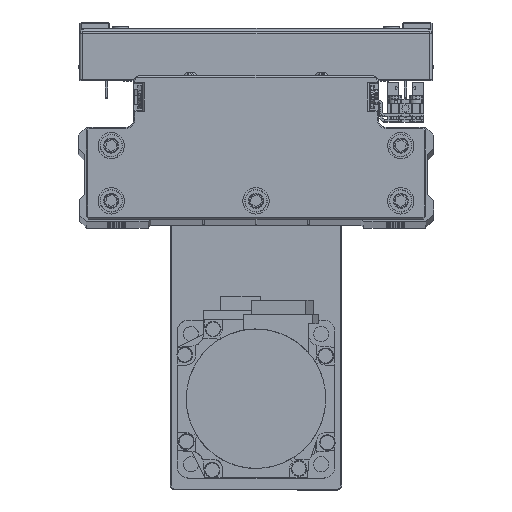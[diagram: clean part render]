
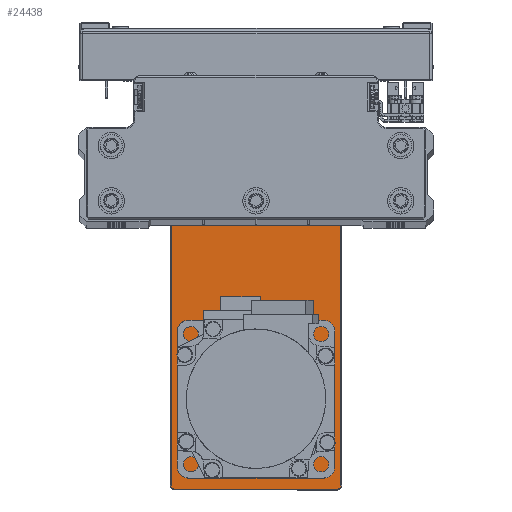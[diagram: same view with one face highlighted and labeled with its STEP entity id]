
A CAD part, top view. The second image highlights one B-rep face of the part: STEP entity #24438.
In plain terms, the highlighted planar face has unit normal (0, 0, 1) as drawn and (0, 1, 0) by its records, which use the part's own axes.
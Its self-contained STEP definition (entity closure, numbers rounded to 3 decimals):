
#166 = VERTEX_POINT ( 'NONE', #527 ) ;
#527 = CARTESIAN_POINT ( 'NONE',  ( 61.051, 6., 25.017 ) ) ;
#529 = VERTEX_POINT ( 'NONE', #14568 ) ;
#595 = CARTESIAN_POINT ( 'NONE',  ( 0., 6., -32.2 ) ) ;
#864 = ORIENTED_EDGE ( 'NONE', *, *, #35269, .T. ) ;
#1194 = DIRECTION ( 'NONE',  ( 0., -1., 0. ) ) ;
#1312 = EDGE_CURVE ( 'NONE', #30140, #10570, #21007, .T. ) ;
#1366 = AXIS2_PLACEMENT_3D ( 'NONE', #23630, #37556, #6263 ) ;
#1404 = CARTESIAN_POINT ( 'NONE',  ( 61.051, 6., 23.492 ) ) ;
#1407 = DIRECTION ( 'NONE',  ( 0., 0., -1. ) ) ;
#1914 = ORIENTED_EDGE ( 'NONE', *, *, #28857, .F. ) ;
#1935 = CARTESIAN_POINT ( 'NONE',  ( 0., 6., 32.2 ) ) ;
#1994 = VERTEX_POINT ( 'NONE', #42963 ) ;
#2457 = EDGE_CURVE ( 'NONE', #15174, #12155, #26929, .T. ) ;
#2636 = EDGE_CURVE ( 'NONE', #12155, #38774, #18735, .T. ) ;
#2807 = CARTESIAN_POINT ( 'NONE',  ( 83.5, 6., 32.2 ) ) ;
#3679 = ORIENTED_EDGE ( 'NONE', *, *, #40190, .F. ) ;
#3734 = AXIS2_PLACEMENT_3D ( 'NONE', #44867, #13543, #27468 ) ;
#4494 = ORIENTED_EDGE ( 'NONE', *, *, #9593, .F. ) ;
#4495 = VERTEX_POINT ( 'NONE', #7477 ) ;
#4639 = FACE_BOUND ( 'NONE', #33441, .T. ) ;
#5988 = AXIS2_PLACEMENT_3D ( 'NONE', #41315, #10021, #23965 ) ;
#6098 = AXIS2_PLACEMENT_3D ( 'NONE', #1404, #15319, #29234 ) ;
#6263 = DIRECTION ( 'NONE',  ( 0., 0., -1. ) ) ;
#6304 = VERTEX_POINT ( 'NONE', #8764 ) ;
#6307 = ORIENTED_EDGE ( 'NONE', *, *, #6386, .T. ) ;
#6386 = EDGE_CURVE ( 'NONE', #38774, #1994, #39251, .T. ) ;
#6494 = CARTESIAN_POINT ( 'NONE',  ( 61.051, 6., 21.967 ) ) ;
#6988 = CARTESIAN_POINT ( 'NONE',  ( -84.7, 6., 0. ) ) ;
#7250 = AXIS2_PLACEMENT_3D ( 'NONE', #42896, #11605, #25542 ) ;
#7389 = AXIS2_PLACEMENT_3D ( 'NONE', #32462, #1194, #15101 ) ;
#7477 = CARTESIAN_POINT ( 'NONE',  ( -83.5, 6., -32.2 ) ) ;
#7650 = EDGE_CURVE ( 'NONE', #1994, #4495, #31851, .T. ) ;
#8044 = FACE_BOUND ( 'NONE', #24899, .T. ) ;
#8411 = DIRECTION ( 'NONE',  ( 0., 1., 0. ) ) ;
#8764 = CARTESIAN_POINT ( 'NONE',  ( 75.992, 6., -7.026 ) ) ;
#8774 = EDGE_CURVE ( 'NONE', #18670, #30144, #38279, .T. ) ;
#9196 = ORIENTED_EDGE ( 'NONE', *, *, #2457, .T. ) ;
#9593 = EDGE_CURVE ( 'NONE', #529, #20074, #43082, .T. ) ;
#10021 = DIRECTION ( 'NONE',  ( 0., 1., 0. ) ) ;
#10278 = ORIENTED_EDGE ( 'NONE', *, *, #20674, .T. ) ;
#10563 = DIRECTION ( 'NONE',  ( 0., 1., 0. ) ) ;
#10570 = VERTEX_POINT ( 'NONE', #13961 ) ;
#10896 = CARTESIAN_POINT ( 'NONE',  ( -83.5, 6., 31. ) ) ;
#10977 = EDGE_CURVE ( 'NONE', #20074, #529, #25676, .T. ) ;
#11179 = CARTESIAN_POINT ( 'NONE',  ( -84.7, 6., -31. ) ) ;
#11401 = CIRCLE ( 'NONE', #36935, 1.525 ) ;
#11605 = DIRECTION ( 'NONE',  ( 0., 1., 0. ) ) ;
#12155 = VERTEX_POINT ( 'NONE', #28751 ) ;
#12827 = CARTESIAN_POINT ( 'NONE',  ( 61.051, 6., 23.492 ) ) ;
#12873 = CARTESIAN_POINT ( 'NONE',  ( 75.992, 6., -8.551 ) ) ;
#13317 = AXIS2_PLACEMENT_3D ( 'NONE', #12827, #26755, #40708 ) ;
#13543 = DIRECTION ( 'NONE',  ( 0., -1., 0. ) ) ;
#13837 = DIRECTION ( 'NONE',  ( 0., 0., 1. ) ) ;
#13843 = DIRECTION ( 'NONE',  ( 0., 0., -1. ) ) ;
#13883 = ORIENTED_EDGE ( 'NONE', *, *, #1312, .T. ) ;
#13961 = CARTESIAN_POINT ( 'NONE',  ( 52.5, 6., -10.3 ) ) ;
#14512 = DIRECTION ( 'NONE',  ( -1., 0., 0. ) ) ;
#14568 = CARTESIAN_POINT ( 'NONE',  ( -50.5, 6., 15. ) ) ;
#14787 = CARTESIAN_POINT ( 'NONE',  ( -50.5, 6., -15. ) ) ;
#15101 = DIRECTION ( 'NONE',  ( 0., 0., -1. ) ) ;
#15174 = VERTEX_POINT ( 'NONE', #2807 ) ;
#15319 = DIRECTION ( 'NONE',  ( 0., 1., 0. ) ) ;
#15845 = DIRECTION ( 'NONE',  ( 1., 0., 0. ) ) ;
#16417 = EDGE_LOOP ( 'NONE', ( #31244, #31415 ) ) ;
#16721 = VECTOR ( 'NONE', #14512, 1000. ) ;
#16873 = CIRCLE ( 'NONE', #42407, 1.525 ) ;
#17085 = CIRCLE ( 'NONE', #42630, 1.2 ) ;
#17636 = EDGE_CURVE ( 'NONE', #10570, #30140, #43137, .T. ) ;
#18551 = PLANE ( 'NONE',  #7389 ) ;
#18670 = VERTEX_POINT ( 'NONE', #11179 ) ;
#18735 = LINE ( 'NONE', #32662, #37892 ) ;
#19556 = AXIS2_PLACEMENT_3D ( 'NONE', #41871, #10563, #24489 ) ;
#20074 = VERTEX_POINT ( 'NONE', #14787 ) ;
#20674 = EDGE_CURVE ( 'NONE', #32442, #15174, #33208, .T. ) ;
#20910 = DIRECTION ( 'NONE',  ( 0., 0., 1. ) ) ;
#20997 = AXIS2_PLACEMENT_3D ( 'NONE', #10896, #24833, #38772 ) ;
#21007 = CIRCLE ( 'NONE', #1366, 10.3 ) ;
#21977 = FACE_BOUND ( 'NONE', #29190, .T. ) ;
#22093 = EDGE_CURVE ( 'NONE', #4495, #18670, #17085, .T. ) ;
#22341 = DIRECTION ( 'NONE',  ( 0., 0., 1. ) ) ;
#23384 = AXIS2_PLACEMENT_3D ( 'NONE', #39720, #8411, #22341 ) ;
#23630 = CARTESIAN_POINT ( 'NONE',  ( 52.5, 6., 0. ) ) ;
#23965 = DIRECTION ( 'NONE',  ( 0., 0., 1. ) ) ;
#24164 = ORIENTED_EDGE ( 'NONE', *, *, #22093, .T. ) ;
#24438 = ADVANCED_FACE ( 'NONE', ( #39326, #8044, #21977, #35910, #4639 ), #18551, .F. ) ;
#24489 = DIRECTION ( 'NONE',  ( 0., 0., -1. ) ) ;
#24833 = DIRECTION ( 'NONE',  ( 0., 1., 0. ) ) ;
#24899 = EDGE_LOOP ( 'NONE', ( #1914, #3679 ) ) ;
#25542 = DIRECTION ( 'NONE',  ( 0., 0., -1. ) ) ;
#25676 = CIRCLE ( 'NONE', #5988, 15. ) ;
#25777 = CIRCLE ( 'NONE', #6098, 1.525 ) ;
#26322 = CARTESIAN_POINT ( 'NONE',  ( 52.5, 6., 10.3 ) ) ;
#26646 = EDGE_CURVE ( 'NONE', #166, #31479, #25777, .T. ) ;
#26755 = DIRECTION ( 'NONE',  ( 0., 1., 0. ) ) ;
#26813 = DIRECTION ( 'NONE',  ( 0., 1., 0. ) ) ;
#26929 = CIRCLE ( 'NONE', #7250, 1.2 ) ;
#27468 = DIRECTION ( 'NONE',  ( 0., 0., -1. ) ) ;
#28654 = VECTOR ( 'NONE', #15845, 1000. ) ;
#28751 = CARTESIAN_POINT ( 'NONE',  ( 84.7, 6., 31. ) ) ;
#28857 = EDGE_CURVE ( 'NONE', #6304, #39232, #11401, .T. ) ;
#29190 = EDGE_LOOP ( 'NONE', ( #13883, #34600 ) ) ;
#29234 = DIRECTION ( 'NONE',  ( 0., 0., 1. ) ) ;
#30140 = VERTEX_POINT ( 'NONE', #26322 ) ;
#30144 = VERTEX_POINT ( 'NONE', #40267 ) ;
#31177 = CARTESIAN_POINT ( 'NONE',  ( 75.992, 6., -8.551 ) ) ;
#31184 = CARTESIAN_POINT ( 'NONE',  ( -83.5, 6., -31. ) ) ;
#31244 = ORIENTED_EDGE ( 'NONE', *, *, #26646, .F. ) ;
#31415 = ORIENTED_EDGE ( 'NONE', *, *, #39895, .F. ) ;
#31479 = VERTEX_POINT ( 'NONE', #6494 ) ;
#31851 = LINE ( 'NONE', #595, #16721 ) ;
#32168 = ORIENTED_EDGE ( 'NONE', *, *, #2636, .T. ) ;
#32442 = VERTEX_POINT ( 'NONE', #41265 ) ;
#32462 = CARTESIAN_POINT ( 'NONE',  ( 0., 6., 0. ) ) ;
#32662 = CARTESIAN_POINT ( 'NONE',  ( 84.7, 6., 0. ) ) ;
#32807 = VECTOR ( 'NONE', #20910, 1000. ) ;
#33020 = CIRCLE ( 'NONE', #13317, 1.525 ) ;
#33208 = LINE ( 'NONE', #1935, #28654 ) ;
#33441 = EDGE_LOOP ( 'NONE', ( #4494, #44607 ) ) ;
#34600 = ORIENTED_EDGE ( 'NONE', *, *, #17636, .T. ) ;
#35269 = EDGE_CURVE ( 'NONE', #30144, #32442, #40716, .T. ) ;
#35910 = FACE_OUTER_BOUND ( 'NONE', #38997, .T. ) ;
#36935 = AXIS2_PLACEMENT_3D ( 'NONE', #12873, #26813, #40768 ) ;
#37556 = DIRECTION ( 'NONE',  ( 0., -1., 0. ) ) ;
#37644 = ORIENTED_EDGE ( 'NONE', *, *, #8774, .T. ) ;
#37892 = VECTOR ( 'NONE', #1407, 1000. ) ;
#38279 = LINE ( 'NONE', #6988, #32807 ) ;
#38772 = DIRECTION ( 'NONE',  ( 0., 0., -1. ) ) ;
#38774 = VERTEX_POINT ( 'NONE', #39225 ) ;
#38997 = EDGE_LOOP ( 'NONE', ( #6307, #42812, #24164, #37644, #864, #10278, #9196, #32168 ) ) ;
#39161 = CARTESIAN_POINT ( 'NONE',  ( 75.992, 6., -10.076 ) ) ;
#39225 = CARTESIAN_POINT ( 'NONE',  ( 84.7, 6., -31. ) ) ;
#39232 = VERTEX_POINT ( 'NONE', #39161 ) ;
#39251 = CIRCLE ( 'NONE', #19556, 1.2 ) ;
#39326 = FACE_BOUND ( 'NONE', #16417, .T. ) ;
#39720 = CARTESIAN_POINT ( 'NONE',  ( -50.5, 6., 0. ) ) ;
#39895 = EDGE_CURVE ( 'NONE', #31479, #166, #33020, .T. ) ;
#40190 = EDGE_CURVE ( 'NONE', #39232, #6304, #16873, .T. ) ;
#40267 = CARTESIAN_POINT ( 'NONE',  ( -84.7, 6., 31. ) ) ;
#40708 = DIRECTION ( 'NONE',  ( 0., 0., 1. ) ) ;
#40716 = CIRCLE ( 'NONE', #20997, 1.2 ) ;
#40768 = DIRECTION ( 'NONE',  ( 0., 0., 1. ) ) ;
#41265 = CARTESIAN_POINT ( 'NONE',  ( -83.5, 6., 32.2 ) ) ;
#41315 = CARTESIAN_POINT ( 'NONE',  ( -50.5, 6., 0. ) ) ;
#41871 = CARTESIAN_POINT ( 'NONE',  ( 83.5, 6., -31. ) ) ;
#42407 = AXIS2_PLACEMENT_3D ( 'NONE', #31177, #45142, #13837 ) ;
#42630 = AXIS2_PLACEMENT_3D ( 'NONE', #31184, #45148, #13843 ) ;
#42812 = ORIENTED_EDGE ( 'NONE', *, *, #7650, .T. ) ;
#42896 = CARTESIAN_POINT ( 'NONE',  ( 83.5, 6., 31. ) ) ;
#42963 = CARTESIAN_POINT ( 'NONE',  ( 83.5, 6., -32.2 ) ) ;
#43082 = CIRCLE ( 'NONE', #23384, 15. ) ;
#43137 = CIRCLE ( 'NONE', #3734, 10.3 ) ;
#44607 = ORIENTED_EDGE ( 'NONE', *, *, #10977, .F. ) ;
#44867 = CARTESIAN_POINT ( 'NONE',  ( 52.5, 6., 0. ) ) ;
#45142 = DIRECTION ( 'NONE',  ( 0., 1., 0. ) ) ;
#45148 = DIRECTION ( 'NONE',  ( 0., 1., 0. ) ) ;
